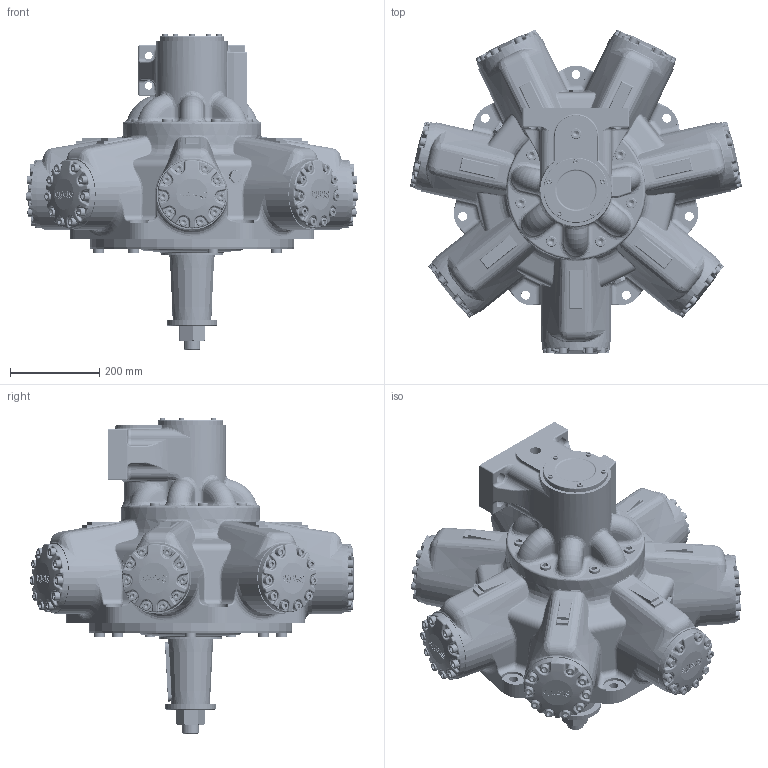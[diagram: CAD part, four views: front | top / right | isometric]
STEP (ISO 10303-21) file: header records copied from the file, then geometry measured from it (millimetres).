
FILE_DESCRIPTION(/* description */ (''),/* implementation_level */ '2;1');
FILE_NAME(/* name */ 'HMB325_T_SM4.stp',/* time_stamp */ '2025-09-04T11:36:49+01:00',/* author */ ('ccallanga'),/* organization */ (''),/* preprocessor_version */ 'ST-DEVELOPER v20',/* originating_system */ 'Autodesk Inventor 2024',/* authorisation */ '');
FILE_SCHEMA (('AUTOMOTIVE_DESIGN { 1 0 10303 214 3 1 1 }'));
Length unit declared in the file: millimetre
Products named in the file (1): HMB325 Web Assembly_Simplify_1
Bounding box: 744.35 x 728.18 x 708.59 mm (x, y, z)
Volume: 72360079.4 mm3; surface area: 1729581.7 mm2
Topology: 1 solids, 1 shells, 6010 faces, 14524 edges, 8539 vertices
Faces by surface type: bspline 2334, plane 1591, cylinder 1265, torus 503, sphere 165, cone 152
Full cylindrical faces by diameter (mm): 2.2 x4, 3.048 x1, 11.913 x5, 12.7 x5, 14.351 x2, 16.51 x1, 17 x4, 19.05 x70, 20 x7, 20.637 x70, 23.825 x14, 25 x4, 25.4 x14, 26.92 x2, 38 x2, 38.1 x4, 50.8 x1, 101.575 x1, 106.68 x1, 114.3 x1, 139.7 x1, 146.05 x1, 311 x1, 311.15 x1, 457.11 x1
Entity records: 271580 total; most frequent: CARTESIAN_POINT 143316, ORIENTED_EDGE 28498, DIRECTION 20265, EDGE_CURVE 14249, VERTEX_POINT 8539, AXIS2_PLACEMENT_3D 7910, EDGE_LOOP 6332, STYLED_ITEM 6011
